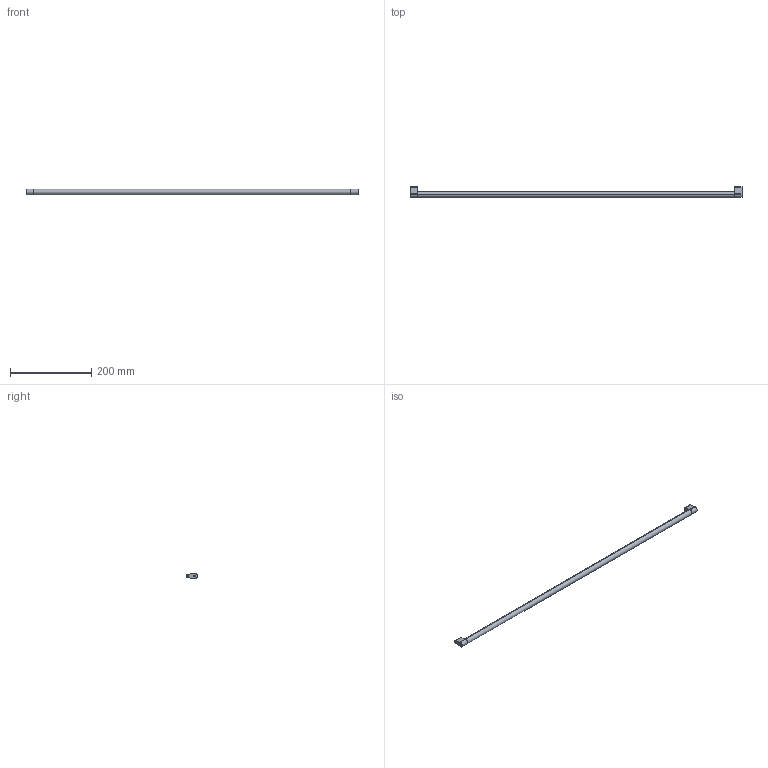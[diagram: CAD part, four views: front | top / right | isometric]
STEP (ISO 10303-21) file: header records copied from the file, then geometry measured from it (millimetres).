
FILE_DESCRIPTION (( 'STEP AP214' ), '1' );
FILE_NAME ('_Synchronisationseinheit Nova Pro KAB900_S16.step', '2010-07-08T13:58:33', ( 'grass' ), ( '' ), 'SwSTEP 2.0', 'SolidWorks 2010', '' );
FILE_SCHEMA (( 'AUTOMOTIVE_DESIGN' ));
Length unit declared in the file: millimetre
Products named in the file (1): _Synchronisationseinheit Nova Pro KAB900_S16
Bounding box: 815 x 26.5 x 14 mm (x, y, z)
Volume: 129146.3 mm3; surface area: 38692.5 mm2
Topology: 3 solids, 3 shells, 36 faces, 78 edges, 52 vertices
Faces by surface type: cylinder 18, plane 18
Entity records: 1050 total; most frequent: DIRECTION 188, CARTESIAN_POINT 167, ORIENTED_EDGE 156, EDGE_CURVE 78, AXIS2_PLACEMENT_3D 73, VERTEX_POINT 52, LINE 42, VECTOR 42
